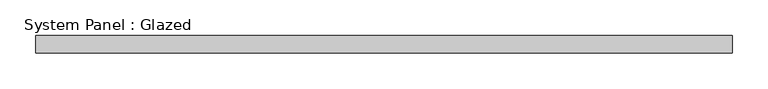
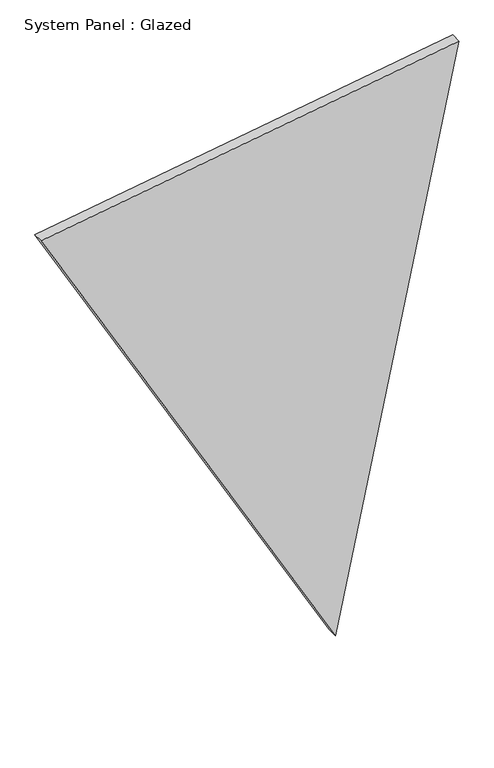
"""IFC4 building model written with IfcOpenShell, lengths in millimetres: plate geometry, System Panel : Glazed."""

from ifc_helpers import new_model, si_unit, frame, origin, place, context, project, spatial, polyline, outline, extrude, source, transform, mapped, element, save


def system_panel_glazed_d2b78630(model_context):
    return source(origin(), model_context, "Body", "SweptSolid", [
        extrude(outline(polyline([(1216.5732989, -488.745189), (0.0, 199.435837), (1367.4588897, 488.745189), (1216.5732989, -488.745189)])), frame((0.0, -49.5, 0.0), z_axis=(0.0, 1.0, 0.0), x_axis=(0.0, 0.0, 1.0)), (0.0, 0.0, 1.0), 25.0),
    ])


if __name__ == "__main__":
    model = new_model("IFC4")
    model_context = context("Model", 3, world=origin())
    ifc_project = project(units=[si_unit("LENGTHUNIT", "METRE", prefix="MILLI")], contexts=[model_context])
    site = spatial("IfcSite", under=ifc_project)
    building = spatial("IfcBuilding", under=site)
    placement = place(None, origin())
    system_panel_glazed_shape = system_panel_glazed_d2b78630(model_context)
    element("IfcPlate", 1, ObjectType="System Panel : Glazed", at=placement, inside=building, context=model_context, shape_type="MappedRepresentation", body=[
        mapped(system_panel_glazed_shape, transform((0.0, 0.0, 0.0), x_axis=(1.0, 0.0, 0.0), y_axis=(0.0, 1.0, 0.0), z_axis=(0.0, 0.0, 1.0))),
    ])
    save(model, "model.ifc")
